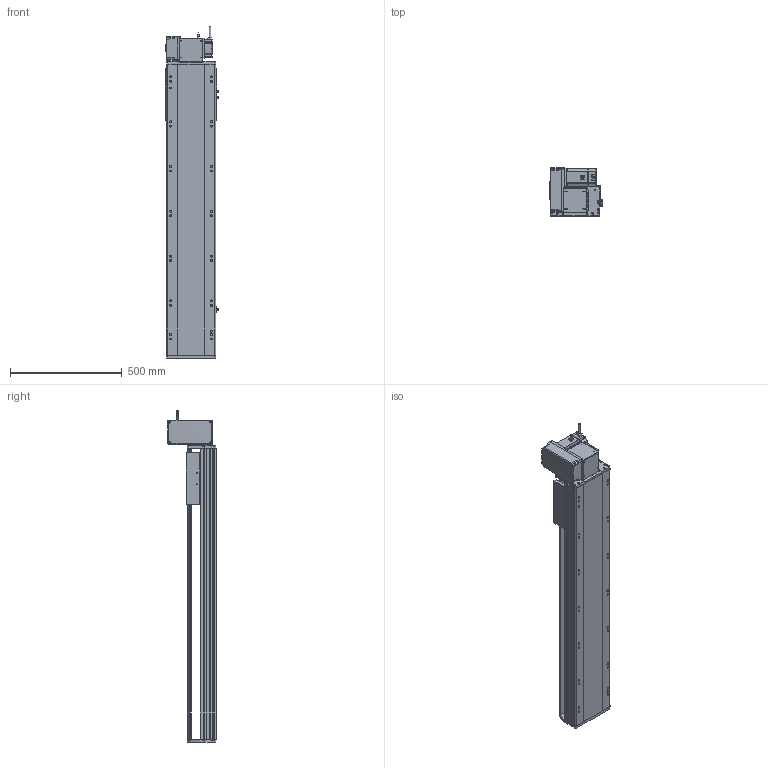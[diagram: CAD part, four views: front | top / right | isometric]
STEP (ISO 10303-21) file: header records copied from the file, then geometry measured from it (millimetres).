
FILE_DESCRIPTION (( 'STEP AP214' ), '1' );
FILE_NAME ('RTB22S-XX-950-LW-M75-C4.STEP', '2025-12-12T05:54:41', ( '' ), ( '' ), 'SwSTEP 2.0', 'SolidWorks 2018', '' );
FILE_SCHEMA (( 'AUTOMOTIVE_DESIGN' ));
Length unit declared in the file: millimetre
Products named in the file (14): RTB22S-L-004賑釱^RTB22S-XX-XX-LW-M75-C4; RTB22S-GY-018P^RTB22S-LW-々湍釱蚾饜_RTB22S-XX-XX-LW-M75-C4; 750W萇儂^RTB22S-XX-XX-LW-M75-C4; OMRON EE-SX672 传感器^RTB22S-XX-XX-LW-M75-C4; RTB22S-LW-々湍釱蚾饜^RTB22S-XX-XX-LW-M75-C4; RTB22S-GY-008-M75--萇儂啣^RTB22S-LW-々湍釱蚾饜_RTB22S-XX-XX-LW-M75-C4; RTB22S-GY-014--々湍釱^RTB22S-LW-々湍釱蚾饜_RTB22S-XX-XX-LW-M75-C4; RTB22S-GY-007奻裔^RTB22S-XX-XX-LW-M75-C4; RTH22-GY-013外置感应片^RTB22S-XX-XX-LW-M75-C4; RTB22S-GY-017P^RTB22S-LW-々湍釱蚾饜_RTB22S-XX-XX-LW-M75-C4; RTB22S-GY-001耜裔^RTB22S-XX-XX-LW-M75-C4; RTB22S-L-011菁釱^RTB22S-XX-XX-LW-M75-C4; RTB22S-GY-005P^RTB22S-LW-々湍釱蚾饜_RTB22S-XX-XX-LW-M75-C4; RTB22S-XX-950-LW-M75-C4
Assembly tree (16 placements, depth 3):
  RTB22S-XX-950-LW-M75-C4
    RTB22S-L-011菁釱^RTB22S-XX-XX-LW-M75-C4
    RTB22S-GY-001耜裔^RTB22S-XX-XX-LW-M75-C4
    750W萇儂^RTB22S-XX-XX-LW-M75-C4
    RTB22S-GY-007奻裔^RTB22S-XX-XX-LW-M75-C4
    RTB22S-L-004賑釱^RTB22S-XX-XX-LW-M75-C4
    RTH22-GY-013外置感应片^RTB22S-XX-XX-LW-M75-C4
    OMRON EE-SX672 传感器^RTB22S-XX-XX-LW-M75-C4  x3
    RTB22S-LW-々湍釱蚾饜^RTB22S-XX-XX-LW-M75-C4
      RTB22S-GY-014--々湍釱^RTB22S-LW-々湍釱蚾饜_RTB22S-XX-XX-LW-M75-C4
      RTB22S-GY-017P^RTB22S-LW-々湍釱蚾饜_RTB22S-XX-XX-LW-M75-C4  x2
      RTB22S-GY-005P^RTB22S-LW-々湍釱蚾饜_RTB22S-XX-XX-LW-M75-C4
      RTB22S-GY-008-M75--萇儂啣^RTB22S-LW-々湍釱蚾饜_RTB22S-XX-XX-LW-M75-C4
      RTB22S-GY-018P^RTB22S-LW-々湍釱蚾饜_RTB22S-XX-XX-LW-M75-C4
Bounding box: 238.5 x 215.5 x 1482.2 mm (x, y, z)
Volume: 20708030.6 mm3; surface area: 2157655.4 mm2
Topology: 15 solids, 15 shells, 1965 faces, 5336 edges, 3422 vertices
Faces by surface type: plane 913, cylinder 610, bspline 296, cone 134, sphere 8, torus 4
Entity records: 52110 total; most frequent: CARTESIAN_POINT 15024, ORIENTED_EDGE 7468, DIRECTION 7168, EDGE_CURVE 3734, AXIS2_PLACEMENT_3D 2522, VERTEX_POINT 2426, VECTOR 2124, LINE 2124
